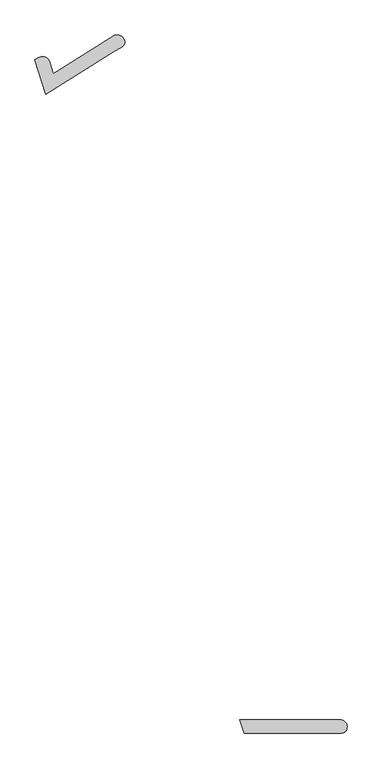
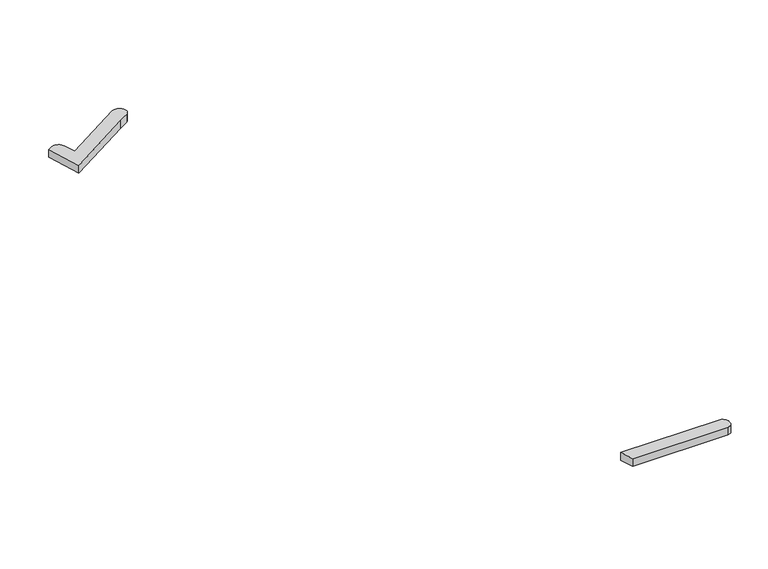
"""IFC4 building model written with IfcOpenShell, lengths in millimetres: geographic element geometry, Site Dwarf walls : Site Dwarf walls."""

from ifc_helpers import new_model, si_unit, point, frame, frame_2d, origin, place, context, project, spatial, polyline, circle_curve, trimmed, segment, composite_curve, outline, extrude, source, transform, mapped, element, save


def geographic_element_bb1ba671(model_context):
    return source(origin(), model_context, "Body", "SweptSolid", [
        extrude(outline(composite_curve([segment(polyline([(4390.8523646, 16701.9624029), (2508.1855911, 15525.5416363), (2206.4274716, 16496.7753711), (2297.6468544, 16553.7755677)]), True, "CONTINUOUS"), segment(trimmed(circle_curve(frame_2d((2414.2290925, 16367.2049865)), 220.0), [point((2297.6468544, 16553.7755677))], [point((2624.3223259, 16432.4800452))], False, "CARTESIAN"), True, "CONTINUOUS"), segment(polyline([(2624.3223259, 16432.4800452), (2724.8257884, 16109.0012492), (4409.9755492, 17161.9996881)]), True, "CONTINUOUS"), segment(trimmed(circle_curve(frame_2d((4515.959402, 16992.3900689)), 200.0), [point((4409.9755492, 17161.9996881))], [point((4685.5690212, 17098.3739217))], False, "CARTESIAN"), True, "CONTINUOUS"), segment(polyline([(4685.5690212, 17098.3739217), (4696.1674065, 17081.4129598)]), True, "CONTINUOUS"), segment(trimmed(circle_curve(frame_2d((4560.4797111, 16996.6258775)), 160.0), [point((4696.1674065, 17081.4129598))], [point((4645.2667934, 16860.9381821))], False, "CARTESIAN"), True, "CONTINUOUS"), segment(polyline([(4645.2667934, 16860.9381821), (4390.8523646, 16701.9624029)]), True, "CONTINUOUS")], self_intersect=False)), frame((0.0, 0.0, -100.0), z_axis=(0.0, 0.0, 1.0), x_axis=(1.0, 0.0, 0.0)), (0.0, 0.0, 1.0), 234.7915304),
        extrude(outline(composite_curve([segment(trimmed(circle_curve(frame_2d((10745.5539162, -2175.0828829)), 200.0), [point((10745.5539162, -1975.0828829))], [point((10945.5539162, -2175.0828829))], False, "CARTESIAN"), True, "CONTINUOUS"), segment(polyline([(10945.5539162, -2175.0828829), (10945.5539162, -2195.0828829)]), True, "CONTINUOUS"), segment(trimmed(circle_curve(frame_2d((10785.5539162, -2195.0828829)), 160.0), [point((10945.5539162, -2195.0828829))], [point((10785.5539162, -2355.0828829))], False, "CARTESIAN"), True, "CONTINUOUS"), segment(polyline([(10785.5539162, -2355.0828829), (8063.6182722, -2355.0828829), (7945.5539162, -1975.0828829), (10745.5539162, -1975.0828829)]), True, "CONTINUOUS")], self_intersect=False)), frame((0.0, 0.0, -100.0), z_axis=(0.0, 0.0, 1.0), x_axis=(1.0, 0.0, 0.0)), (0.0, 0.0, 1.0), 234.7915304),
    ])


if __name__ == "__main__":
    model = new_model("IFC4")
    model_context = context("Model", 3, world=origin())
    ifc_project = project(units=[si_unit("LENGTHUNIT", "METRE", prefix="MILLI")], contexts=[model_context])
    site = spatial("IfcSite", under=ifc_project)
    building = spatial("IfcBuilding", under=site)
    placement = place(None, origin())
    geographic_element_shape = geographic_element_bb1ba671(model_context)
    element("IfcGeographicElement", 1, ObjectType="Site Dwarf walls : Site Dwarf walls", at=placement, inside=building, context=model_context, shape_type="MappedRepresentation", body=[
        mapped(geographic_element_shape, transform((0.0, 0.0, 0.0), x_axis=(1.0, 0.0, 0.0), y_axis=(0.0, 1.0, 0.0), z_axis=(0.0, 0.0, 1.0))),
    ])
    save(model, "model.ifc")
